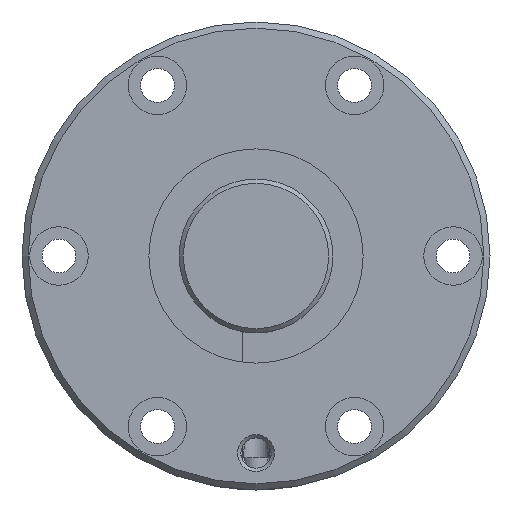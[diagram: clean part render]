
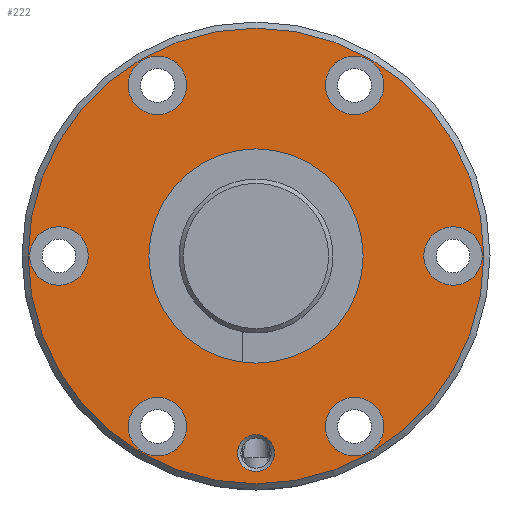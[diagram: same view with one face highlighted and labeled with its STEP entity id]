
A CAD part, left-side view. The second image highlights one B-rep face of the part: STEP entity #222.
In plain terms, the highlighted planar face has unit normal (-1, 0, 0).
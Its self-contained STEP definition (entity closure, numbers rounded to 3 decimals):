
#222 = ADVANCED_FACE( '', ( #386, #387, #388, #389, #390, #391, #392, #393, #394 ), #395, .T. );
#386 = FACE_BOUND( '', #613, .T. );
#387 = FACE_BOUND( '', #614, .T. );
#388 = FACE_BOUND( '', #615, .T. );
#389 = FACE_BOUND( '', #616, .T. );
#390 = FACE_BOUND( '', #617, .T. );
#391 = FACE_BOUND( '', #618, .T. );
#392 = FACE_BOUND( '', #619, .T. );
#393 = FACE_BOUND( '', #620, .T. );
#394 = FACE_OUTER_BOUND( '', #621, .T. );
#395 = PLANE( '', #622 );
#613 = EDGE_LOOP( '', ( #1086 ) );
#614 = EDGE_LOOP( '', ( #1087 ) );
#615 = EDGE_LOOP( '', ( #1088 ) );
#616 = EDGE_LOOP( '', ( #1089 ) );
#617 = EDGE_LOOP( '', ( #1090 ) );
#618 = EDGE_LOOP( '', ( #1091 ) );
#619 = EDGE_LOOP( '', ( #1092 ) );
#620 = EDGE_LOOP( '', ( #1093 ) );
#621 = EDGE_LOOP( '', ( #1094 ) );
#622 = AXIS2_PLACEMENT_3D( '', #1095, #1096, #1097 );
#1086 = ORIENTED_EDGE( '', *, *, #1366, .T. );
#1087 = ORIENTED_EDGE( '', *, *, #1367, .T. );
#1088 = ORIENTED_EDGE( '', *, *, #1273, .T. );
#1089 = ORIENTED_EDGE( '', *, *, #1365, .T. );
#1090 = ORIENTED_EDGE( '', *, *, #1368, .T. );
#1091 = ORIENTED_EDGE( '', *, *, #1369, .T. );
#1092 = ORIENTED_EDGE( '', *, *, #1370, .T. );
#1093 = ORIENTED_EDGE( '', *, *, #1371, .T. );
#1094 = ORIENTED_EDGE( '', *, *, #1372, .F. );
#1095 = CARTESIAN_POINT( '', ( 0., 37., 0. ) );
#1096 = DIRECTION( '', ( -1., 0., 0. ) );
#1097 = DIRECTION( '', ( 0., 0., 1. ) );
#1273 = EDGE_CURVE( '', #1443, #1443, #1444, .T. );
#1365 = EDGE_CURVE( '', #1601, #1601, #1602, .T. );
#1366 = EDGE_CURVE( '', #1603, #1603, #1604, .T. );
#1367 = EDGE_CURVE( '', #1605, #1605, #1606, .F. );
#1368 = EDGE_CURVE( '', #1607, #1607, #1608, .T. );
#1369 = EDGE_CURVE( '', #1609, #1609, #1610, .T. );
#1370 = EDGE_CURVE( '', #1611, #1611, #1612, .T. );
#1371 = EDGE_CURVE( '', #1613, #1613, #1614, .T. );
#1372 = EDGE_CURVE( '', #1615, #1615, #1616, .T. );
#1443 = VERTEX_POINT( '', #1822 );
#1444 = CIRCLE( '', #1823, 3. );
#1601 = VERTEX_POINT( '', #2388 );
#1602 = CIRCLE( '', #2389, 4.75 );
#1603 = VERTEX_POINT( '', #2390 );
#1604 = CIRCLE( '', #2391, 17.4 );
#1605 = VERTEX_POINT( '', #2392 );
#1606 = CIRCLE( '', #2393, 4.75 );
#1607 = VERTEX_POINT( '', #2394 );
#1608 = CIRCLE( '', #2395, 4.75 );
#1609 = VERTEX_POINT( '', #2396 );
#1610 = CIRCLE( '', #2397, 4.75 );
#1611 = VERTEX_POINT( '', #2398 );
#1612 = CIRCLE( '', #2399, 4.75 );
#1613 = VERTEX_POINT( '', #2400 );
#1614 = CIRCLE( '', #2401, 4.75 );
#1615 = VERTEX_POINT( '', #2402 );
#1616 = CIRCLE( '', #2403, 37. );
#1822 = CARTESIAN_POINT( '', ( 0., 0., -35. ) );
#1823 = AXIS2_PLACEMENT_3D( '', #2559, #2560, #2561 );
#2388 = CARTESIAN_POINT( '', ( 0., 16., 22.963 ) );
#2389 = AXIS2_PLACEMENT_3D( '', #2715, #2716, #2717 );
#2390 = CARTESIAN_POINT( '', ( 0., 0., -17.4 ) );
#2391 = AXIS2_PLACEMENT_3D( '', #2718, #2719, #2720 );
#2392 = CARTESIAN_POINT( '', ( 0., 32., 4.75 ) );
#2393 = AXIS2_PLACEMENT_3D( '', #2721, #2722, #2723 );
#2394 = CARTESIAN_POINT( '', ( 0., -16., -32.463 ) );
#2395 = AXIS2_PLACEMENT_3D( '', #2724, #2725, #2726 );
#2396 = CARTESIAN_POINT( '', ( 0., -16., 22.963 ) );
#2397 = AXIS2_PLACEMENT_3D( '', #2727, #2728, #2729 );
#2398 = CARTESIAN_POINT( '', ( 0., 16., -32.463 ) );
#2399 = AXIS2_PLACEMENT_3D( '', #2730, #2731, #2732 );
#2400 = CARTESIAN_POINT( '', ( 0., -32., -4.75 ) );
#2401 = AXIS2_PLACEMENT_3D( '', #2733, #2734, #2735 );
#2402 = CARTESIAN_POINT( '', ( 0., 0., -37. ) );
#2403 = AXIS2_PLACEMENT_3D( '', #2736, #2737, #2738 );
#2559 = CARTESIAN_POINT( '', ( 0., 0., -32. ) );
#2560 = DIRECTION( '', ( 1., 0., 0. ) );
#2561 = DIRECTION( '', ( 0., 0., -1. ) );
#2715 = CARTESIAN_POINT( '', ( 0., 16., 27.713 ) );
#2716 = DIRECTION( '', ( 1., 0., 0. ) );
#2717 = DIRECTION( '', ( 0., 0., -1. ) );
#2718 = CARTESIAN_POINT( '', ( 0., 0., 0. ) );
#2719 = DIRECTION( '', ( 1., 0., 0. ) );
#2720 = DIRECTION( '', ( 0., 0., -1. ) );
#2721 = CARTESIAN_POINT( '', ( 0., 32., 0. ) );
#2722 = DIRECTION( '', ( -1., 0., 0. ) );
#2723 = DIRECTION( '', ( 0., 0., 1. ) );
#2724 = CARTESIAN_POINT( '', ( 0., -16., -27.713 ) );
#2725 = DIRECTION( '', ( 1., 0., 0. ) );
#2726 = DIRECTION( '', ( 0., 0., -1. ) );
#2727 = CARTESIAN_POINT( '', ( 0., -16., 27.713 ) );
#2728 = DIRECTION( '', ( 1., 0., 0. ) );
#2729 = DIRECTION( '', ( 0., 0., -1. ) );
#2730 = CARTESIAN_POINT( '', ( 0., 16., -27.713 ) );
#2731 = DIRECTION( '', ( 1., 0., 0. ) );
#2732 = DIRECTION( '', ( 0., 0., -1. ) );
#2733 = CARTESIAN_POINT( '', ( 0., -32., 0. ) );
#2734 = DIRECTION( '', ( 1., 0., 0. ) );
#2735 = DIRECTION( '', ( 0., 0., -1. ) );
#2736 = CARTESIAN_POINT( '', ( 0., 0., 0. ) );
#2737 = DIRECTION( '', ( 1., 0., 0. ) );
#2738 = DIRECTION( '', ( 0., 0., -1. ) );
